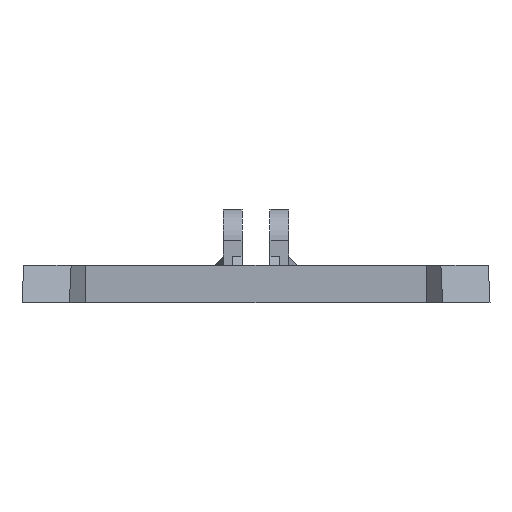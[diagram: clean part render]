
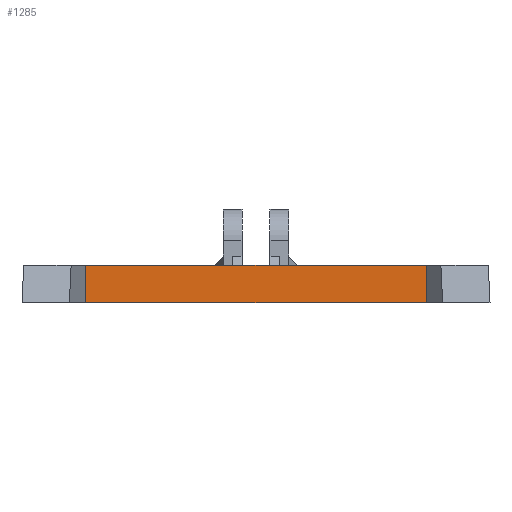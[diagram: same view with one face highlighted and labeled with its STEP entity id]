
A CAD part, front view. The second image highlights one B-rep face of the part: STEP entity #1285.
In plain terms, the highlighted planar face has unit normal (0, -1, 0).
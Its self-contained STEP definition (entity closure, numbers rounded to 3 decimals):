
#113=FACE_OUTER_BOUND('',#183,.T.);
#183=EDGE_LOOP('',(#1155,#1156,#1157,#1158));
#251=LINE('',#1866,#411);
#290=LINE('',#1961,#450);
#338=LINE('',#2054,#498);
#346=LINE('',#2083,#506);
#411=VECTOR('',#1493,10.);
#450=VECTOR('',#1574,10.);
#498=VECTOR('',#1668,10.);
#506=VECTOR('',#1714,10.);
#564=VERTEX_POINT('',#1863);
#565=VERTEX_POINT('',#1865);
#599=VERTEX_POINT('',#1958);
#600=VERTEX_POINT('',#1960);
#696=EDGE_CURVE('',#564,#565,#251,.T.);
#746=EDGE_CURVE('',#599,#600,#290,.T.);
#794=EDGE_CURVE('',#600,#564,#338,.T.);
#806=EDGE_CURVE('',#599,#565,#346,.T.);
#1155=ORIENTED_EDGE('',*,*,#746,.F.);
#1156=ORIENTED_EDGE('',*,*,#806,.T.);
#1157=ORIENTED_EDGE('',*,*,#696,.F.);
#1158=ORIENTED_EDGE('',*,*,#794,.F.);
#1221=PLANE('',#1385);
#1285=ADVANCED_FACE('',(#113),#1221,.T.);
#1385=AXIS2_PLACEMENT_3D('',#2084,#1715,#1716);
#1493=DIRECTION('',(1.,0.,0.));
#1574=DIRECTION('',(-1.,0.,0.));
#1668=DIRECTION('',(0.,0.,1.));
#1714=DIRECTION('',(0.,0.,1.));
#1715=DIRECTION('center_axis',(0.,-1.,0.));
#1716=DIRECTION('ref_axis',(1.,0.,0.));
#1863=CARTESIAN_POINT('',(-36.51,20.,8.));
#1865=CARTESIAN_POINT('',(36.51,20.,8.));
#1866=CARTESIAN_POINT('',(36.51,20.,8.));
#1958=CARTESIAN_POINT('',(36.51,20.,0.));
#1960=CARTESIAN_POINT('',(-36.51,20.,0.));
#1961=CARTESIAN_POINT('',(36.51,20.,0.));
#2054=CARTESIAN_POINT('',(-36.51,20.,0.));
#2083=CARTESIAN_POINT('',(36.51,20.,0.));
#2084=CARTESIAN_POINT('Origin',(-36.51,20.,0.));
